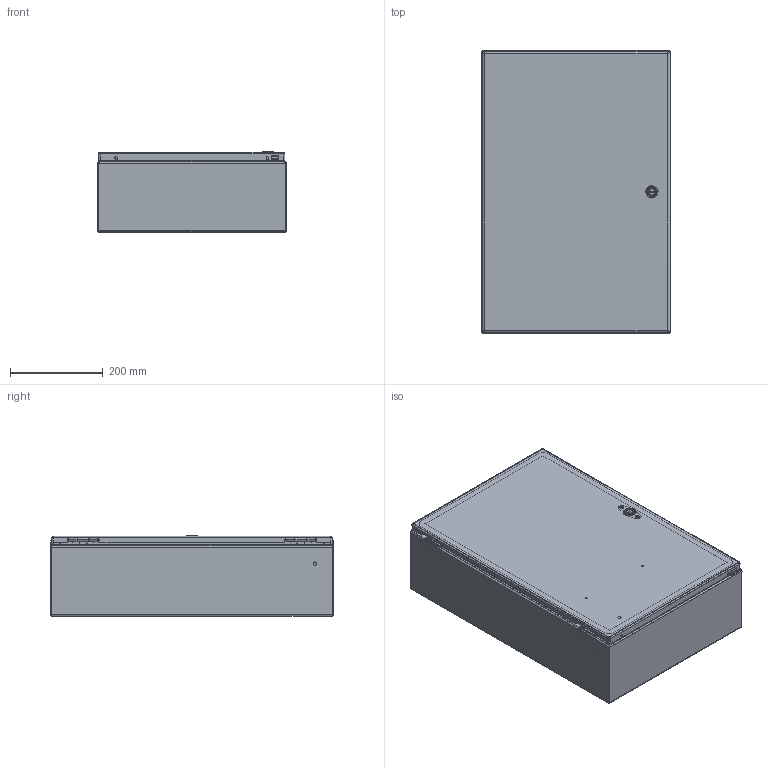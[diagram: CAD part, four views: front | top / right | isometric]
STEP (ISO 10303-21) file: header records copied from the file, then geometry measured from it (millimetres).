
FILE_DESCRIPTION (( 'STEP AP203' ), '1' );
FILE_NAME ('csd24166.STEP', '2012-05-09T17:22:28', ( 'User' ), ( 'Pentair Inc' ), 'SwSTEP 2.0', 'SolidWorks 2010', '' );
FILE_SCHEMA (( 'CONFIG_CONTROL_DESIGN' ));
Products named in the file (27): 87938002; 87543027; 87929507; 87929767; 87929769_Installed on Pin; 89076399; 89076193; 89056623; csd24166; 87934514; 87934317_default; 23271001_After Weld; 87937929_assy; 87937969_weldment; 87936126; 99401225; 87931362_87931362; 64101001; 64201001; 87541994_Installed Height; 87541995; 64202001; 64210001; 64203001; 87927840_87927840; 87932903; 64138001
Assembly tree (38 placements, depth 4):
  csd24166
    87929507  x2
      87929769_Installed on Pin
      87929767
    87543027  x2
    87937929_assy
      87938002
      64138001  x2
      87932903  x2
      64101001
        64201001
        87927840_87927840
        64210001
        64203001
        87541995
        87541994_Installed Height
        64202001
      87937969_weldment
        87931362_87931362  x4
        87936126
        99401225
    87934514
      87934317_default
      23271001_After Weld  x4
      99401225
    89076399  x2
      89076193
      89056623
Bounding box: 406.4 x 610.33 x 173.1 mm (x, y, z)
Volume: 1264618.6 mm3; surface area: 1892924.5 mm2
Topology: 35 solids, 35 shells, 1689 faces, 4125 edges, 2490 vertices
Faces by surface type: plane 652, cylinder 547, bspline 288, torus 106, cone 88, sphere 8
Entity records: 46223 total; most frequent: CARTESIAN_POINT 16302, ORIENTED_EDGE 5874, DIRECTION 5117, EDGE_CURVE 2937, AXIS2_PLACEMENT_3D 1833, VERTEX_POINT 1802, VECTOR 1451, LINE 1451
